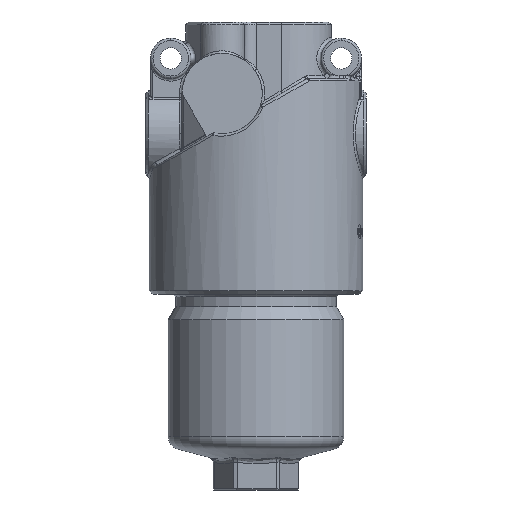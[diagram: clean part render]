
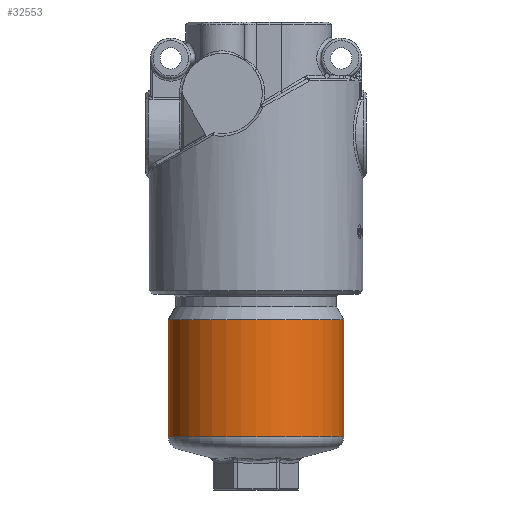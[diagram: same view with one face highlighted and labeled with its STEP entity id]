
A CAD part, front view. The second image highlights one B-rep face of the part: STEP entity #32553.
In plain terms, the highlighted cylindrical face has radius 35 mm (diameter 70 mm), a partial arc.
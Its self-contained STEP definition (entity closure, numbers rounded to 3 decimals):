
#1193 = CARTESIAN_POINT ( 'NONE',  ( 0., 0., -78. ) ) ;
#1446 = EDGE_CURVE ( 'NONE', #33334, #10563, #8075, .T. ) ;
#2746 = CARTESIAN_POINT ( 'NONE',  ( -35., 0., -56.804 ) ) ;
#3777 = CARTESIAN_POINT ( 'NONE',  ( -35., 0., -78. ) ) ;
#3867 = ORIENTED_EDGE ( 'NONE', *, *, #34139, .T. ) ;
#4079 = CARTESIAN_POINT ( 'NONE',  ( 35., 0., -56.804 ) ) ;
#4820 = FACE_OUTER_BOUND ( 'NONE', #9383, .T. ) ;
#5580 = DIRECTION ( 'NONE',  ( 0., 0., 1. ) ) ;
#8075 = LINE ( 'NONE', #29255, #11386 ) ;
#8462 = CARTESIAN_POINT ( 'NONE',  ( 0., 0., -56.804 ) ) ;
#8824 = ORIENTED_EDGE ( 'NONE', *, *, #20830, .F. ) ;
#9383 = EDGE_LOOP ( 'NONE', ( #9724, #8824, #3867, #22086 ) ) ;
#9724 = ORIENTED_EDGE ( 'NONE', *, *, #1446, .F. ) ;
#10563 = VERTEX_POINT ( 'NONE', #4079 ) ;
#11040 = LINE ( 'NONE', #3777, #25186 ) ;
#11133 = DIRECTION ( 'NONE',  ( -1., 0., 0. ) ) ;
#11386 = VECTOR ( 'NONE', #31909, 1000. ) ;
#12507 = VERTEX_POINT ( 'NONE', #2746 ) ;
#12739 = CYLINDRICAL_SURFACE ( 'NONE', #18164, 35. ) ;
#15045 = DIRECTION ( 'NONE',  ( -1., 0., 0. ) ) ;
#15326 = VERTEX_POINT ( 'NONE', #32463 ) ;
#18164 = AXIS2_PLACEMENT_3D ( 'NONE', #1193, #19806, #15045 ) ;
#19164 = CIRCLE ( 'NONE', #27368, 35. ) ;
#19529 = DIRECTION ( 'NONE',  ( 0., 1., 0. ) ) ;
#19806 = DIRECTION ( 'NONE',  ( 0., 0., -1. ) ) ;
#20830 = EDGE_CURVE ( 'NONE', #15326, #33334, #19164, .T. ) ;
#22086 = ORIENTED_EDGE ( 'NONE', *, *, #23139, .T. ) ;
#22208 = CARTESIAN_POINT ( 'NONE',  ( 0., 0., -10.196 ) ) ;
#23139 = EDGE_CURVE ( 'NONE', #12507, #10563, #32996, .T. ) ;
#24550 = CARTESIAN_POINT ( 'NONE',  ( 35., 0., -10.196 ) ) ;
#25046 = DIRECTION ( 'NONE',  ( 0., 0., -1. ) ) ;
#25186 = VECTOR ( 'NONE', #25046, 1000. ) ;
#26807 = AXIS2_PLACEMENT_3D ( 'NONE', #8462, #5580, #11133 ) ;
#27368 = AXIS2_PLACEMENT_3D ( 'NONE', #22208, #27391, #19529 ) ;
#27391 = DIRECTION ( 'NONE',  ( 0., 0., 1. ) ) ;
#29255 = CARTESIAN_POINT ( 'NONE',  ( 35., 0., -78. ) ) ;
#31909 = DIRECTION ( 'NONE',  ( 0., 0., -1. ) ) ;
#32463 = CARTESIAN_POINT ( 'NONE',  ( -35., 0., -10.196 ) ) ;
#32553 = ADVANCED_FACE ( 'NONE', ( #4820 ), #12739, .T. ) ;
#32996 = CIRCLE ( 'NONE', #26807, 35. ) ;
#33334 = VERTEX_POINT ( 'NONE', #24550 ) ;
#34139 = EDGE_CURVE ( 'NONE', #15326, #12507, #11040, .T. ) ;
